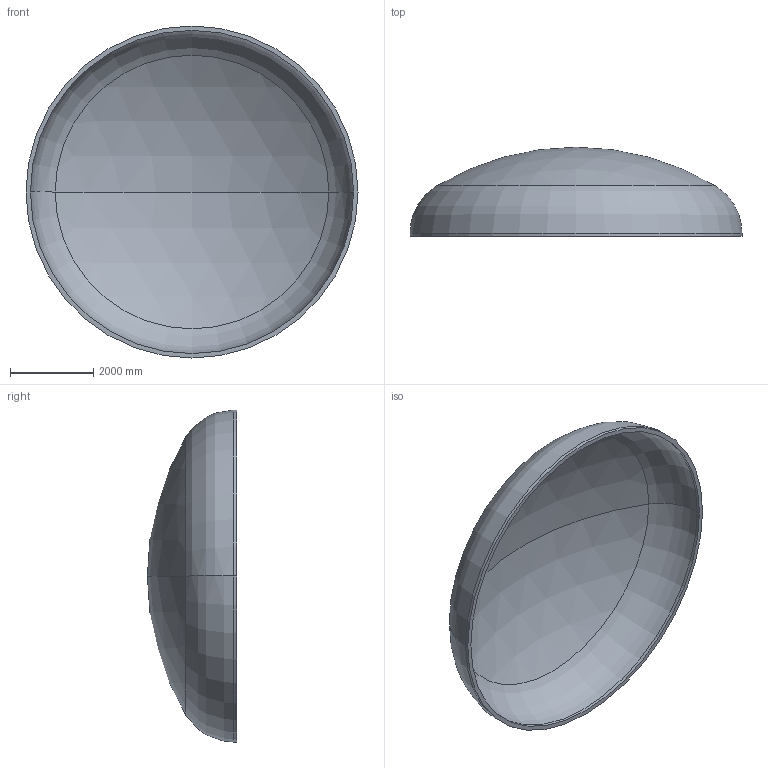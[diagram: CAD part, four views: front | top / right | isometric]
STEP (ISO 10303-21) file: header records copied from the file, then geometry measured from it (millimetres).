
FILE_DESCRIPTION (( 'STEP AP203' ), '1' );
FILE_NAME ('DIN 28013 Korbbogenform_-_Boden DIN 28013 - 8000 x 75 - I - s=106.step', '2016-07-04T11:05:28', ( '' ), ( '' ), 'SwSTEP 2.0', 'SolidWorks 2013', '' );
FILE_SCHEMA (( 'CONFIG_CONTROL_DESIGN' ));
Length unit declared in the file: millimetre
Products named in the file (1): DIN 28013 Korbbogenform_-_Boden DIN 28013 - 8000 x 75 - I - s=106
Bounding box: 8000 x 2150.2 x 8000 mm (x, y, z)
Volume: 7446138020.2 mm3; surface area: 143145419.9 mm2
Topology: 1 solids, 1 shells, 13 faces, 24 edges, 14 vertices
Faces by surface type: torus 4, cylinder 4, sphere 4, plane 1
Entity records: 407 total; most frequent: DIRECTION 72, CARTESIAN_POINT 52, ORIENTED_EDGE 48, AXIS2_PLACEMENT_3D 34, EDGE_CURVE 24, CIRCLE 20, EDGE_LOOP 14, VERTEX_POINT 14
